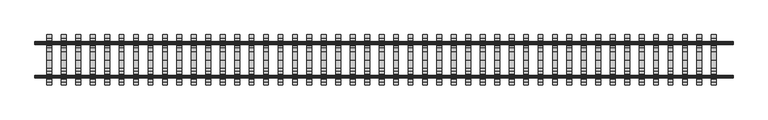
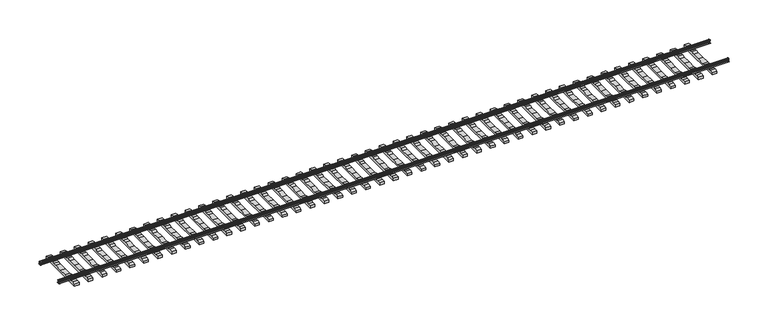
"""IFC4 building model written with IfcOpenShell, lengths in millimetres: beam geometry, 轨道 : 轨道."""

from ifc_helpers import new_model, si_unit, frame, origin, place, context, project, spatial, polyline, circle_curve, outline, extrude, source, transform, mapped, element, save
from ifc_brep_helpers import plane_surface, cylinder_surface, revolved_surface, advanced_brep


def beam_23171de8(model_context):
    return source(origin(), model_context, "Body", "SolidModel", [
        extrude(outline(polyline([(-1049.8834664, -104.5), (-1049.8834664, -4.4793111), (-912.0, 20.0), (-812.0, 20.0), (-812.0, 0.0), (-588.0, 0.0), (-588.0, 20.0), (-488.0, 20.0), (-350.0, -4.5), (0.0, -4.5), (350.0, -4.5), (488.0, 20.0), (588.0, 20.0), (588.0, 0.0), (812.0, 0.0), (812.0, 20.0), (912.0, 20.0), (1049.8834664, -4.4793111), (1049.8834664, -104.5), (-1049.8834664, -104.5)])), frame((13600.0, 0.0, 0.0), z_axis=(1.0, 0.0, 0.0), x_axis=(0.0, 1.0, 0.0)), (0.0, 0.0, 1.0), 200.0),
        extrude(outline(polyline([(-1049.8834664, -104.5), (-1049.8834664, -4.4793111), (-912.0, 20.0), (-812.0, 20.0), (-812.0, 0.0), (-588.0, 0.0), (-588.0, 20.0), (-488.0, 20.0), (-350.0, -4.5), (0.0, -4.5), (350.0, -4.5), (488.0, 20.0), (588.0, 20.0), (588.0, 0.0), (812.0, 0.0), (812.0, 20.0), (912.0, 20.0), (1049.8834664, -4.4793111), (1049.8834664, -104.5), (-1049.8834664, -104.5)])), frame((13000.0, 0.0, 0.0), z_axis=(1.0, 0.0, 0.0), x_axis=(0.0, 1.0, 0.0)), (0.0, 0.0, 1.0), 200.0),
        extrude(outline(polyline([(-1049.8834664, -104.5), (-1049.8834664, -4.4793111), (-912.0, 20.0), (-812.0, 20.0), (-812.0, 0.0), (-588.0, 0.0), (-588.0, 20.0), (-488.0, 20.0), (-350.0, -4.5), (0.0, -4.5), (350.0, -4.5), (488.0, 20.0), (588.0, 20.0), (588.0, 0.0), (812.0, 0.0), (812.0, 20.0), (912.0, 20.0), (1049.8834664, -4.4793111), (1049.8834664, -104.5), (-1049.8834664, -104.5)])), frame((12400.0, 0.0, 0.0), z_axis=(1.0, 0.0, 0.0), x_axis=(0.0, 1.0, 0.0)), (0.0, 0.0, 1.0), 200.0),
        extrude(outline(polyline([(-1049.8834664, -104.5), (-1049.8834664, -4.4793111), (-912.0, 20.0), (-812.0, 20.0), (-812.0, 0.0), (-588.0, 0.0), (-588.0, 20.0), (-488.0, 20.0), (-350.0, -4.5), (0.0, -4.5), (350.0, -4.5), (488.0, 20.0), (588.0, 20.0), (588.0, 0.0), (812.0, 0.0), (812.0, 20.0), (912.0, 20.0), (1049.8834664, -4.4793111), (1049.8834664, -104.5), (-1049.8834664, -104.5)])), frame((11800.0, 0.0, 0.0), z_axis=(1.0, 0.0, 0.0), x_axis=(0.0, 1.0, 0.0)), (0.0, 0.0, 1.0), 200.0),
        extrude(outline(polyline([(-1049.8834664, -104.5), (-1049.8834664, -4.4793111), (-912.0, 20.0), (-812.0, 20.0), (-812.0, 0.0), (-588.0, 0.0), (-588.0, 20.0), (-488.0, 20.0), (-350.0, -4.5), (0.0, -4.5), (350.0, -4.5), (488.0, 20.0), (588.0, 20.0), (588.0, 0.0), (812.0, 0.0), (812.0, 20.0), (912.0, 20.0), (1049.8834664, -4.4793111), (1049.8834664, -104.5), (-1049.8834664, -104.5)])), frame((11200.0, 0.0, 0.0), z_axis=(1.0, 0.0, 0.0), x_axis=(0.0, 1.0, 0.0)), (0.0, 0.0, 1.0), 200.0),
        extrude(outline(polyline([(-1049.8834664, -104.5), (-1049.8834664, -4.4793111), (-912.0, 20.0), (-812.0, 20.0), (-812.0, 0.0), (-588.0, 0.0), (-588.0, 20.0), (-488.0, 20.0), (-350.0, -4.5), (0.0, -4.5), (350.0, -4.5), (488.0, 20.0), (588.0, 20.0), (588.0, 0.0), (812.0, 0.0), (812.0, 20.0), (912.0, 20.0), (1049.8834664, -4.4793111), (1049.8834664, -104.5), (-1049.8834664, -104.5)])), frame((10600.0, 0.0, 0.0), z_axis=(1.0, 0.0, 0.0), x_axis=(0.0, 1.0, 0.0)), (0.0, 0.0, 1.0), 200.0),
        extrude(outline(polyline([(-1049.8834664, -104.5), (-1049.8834664, -4.4793111), (-912.0, 20.0), (-812.0, 20.0), (-812.0, 0.0), (-588.0, 0.0), (-588.0, 20.0), (-488.0, 20.0), (-350.0, -4.5), (0.0, -4.5), (350.0, -4.5), (488.0, 20.0), (588.0, 20.0), (588.0, 0.0), (812.0, 0.0), (812.0, 20.0), (912.0, 20.0), (1049.8834664, -4.4793111), (1049.8834664, -104.5), (-1049.8834664, -104.5)])), frame((10000.0, 0.0, 0.0), z_axis=(1.0, 0.0, 0.0), x_axis=(0.0, 1.0, 0.0)), (0.0, 0.0, 1.0), 200.0),
        extrude(outline(polyline([(-1049.8834664, -104.5), (-1049.8834664, -4.4793111), (-912.0, 20.0), (-812.0, 20.0), (-812.0, 0.0), (-588.0, 0.0), (-588.0, 20.0), (-488.0, 20.0), (-350.0, -4.5), (0.0, -4.5), (350.0, -4.5), (488.0, 20.0), (588.0, 20.0), (588.0, 0.0), (812.0, 0.0), (812.0, 20.0), (912.0, 20.0), (1049.8834664, -4.4793111), (1049.8834664, -104.5), (-1049.8834664, -104.5)])), frame((9400.0, 0.0, 0.0), z_axis=(1.0, 0.0, 0.0), x_axis=(0.0, 1.0, 0.0)), (0.0, 0.0, 1.0), 200.0),
        extrude(outline(polyline([(-1049.8834664, -104.5), (-1049.8834664, -4.4793111), (-912.0, 20.0), (-812.0, 20.0), (-812.0, 0.0), (-588.0, 0.0), (-588.0, 20.0), (-488.0, 20.0), (-350.0, -4.5), (0.0, -4.5), (350.0, -4.5), (488.0, 20.0), (588.0, 20.0), (588.0, 0.0), (812.0, 0.0), (812.0, 20.0), (912.0, 20.0), (1049.8834664, -4.4793111), (1049.8834664, -104.5), (-1049.8834664, -104.5)])), frame((8800.0, 0.0, 0.0), z_axis=(1.0, 0.0, 0.0), x_axis=(0.0, 1.0, 0.0)), (0.0, 0.0, 1.0), 200.0),
        extrude(outline(polyline([(-1049.8834664, -104.5), (-1049.8834664, -4.4793111), (-912.0, 20.0), (-812.0, 20.0), (-812.0, 0.0), (-588.0, 0.0), (-588.0, 20.0), (-488.0, 20.0), (-350.0, -4.5), (0.0, -4.5), (350.0, -4.5), (488.0, 20.0), (588.0, 20.0), (588.0, 0.0), (812.0, 0.0), (812.0, 20.0), (912.0, 20.0), (1049.8834664, -4.4793111), (1049.8834664, -104.5), (-1049.8834664, -104.5)])), frame((8200.0, 0.0, 0.0), z_axis=(1.0, 0.0, 0.0), x_axis=(0.0, 1.0, 0.0)), (0.0, 0.0, 1.0), 200.0),
        extrude(outline(polyline([(-1049.8834664, -104.5), (-1049.8834664, -4.4793111), (-912.0, 20.0), (-812.0, 20.0), (-812.0, 0.0), (-588.0, 0.0), (-588.0, 20.0), (-488.0, 20.0), (-350.0, -4.5), (0.0, -4.5), (350.0, -4.5), (488.0, 20.0), (588.0, 20.0), (588.0, 0.0), (812.0, 0.0), (812.0, 20.0), (912.0, 20.0), (1049.8834664, -4.4793111), (1049.8834664, -104.5), (-1049.8834664, -104.5)])), frame((7600.0, 0.0, 0.0), z_axis=(1.0, 0.0, 0.0), x_axis=(0.0, 1.0, 0.0)), (0.0, 0.0, 1.0), 200.0),
        extrude(outline(polyline([(-1049.8834664, -104.5), (-1049.8834664, -4.4793111), (-912.0, 20.0), (-812.0, 20.0), (-812.0, 0.0), (-588.0, 0.0), (-588.0, 20.0), (-488.0, 20.0), (-350.0, -4.5), (0.0, -4.5), (350.0, -4.5), (488.0, 20.0), (588.0, 20.0), (588.0, 0.0), (812.0, 0.0), (812.0, 20.0), (912.0, 20.0), (1049.8834664, -4.4793111), (1049.8834664, -104.5), (-1049.8834664, -104.5)])), frame((7000.0, 0.0, 0.0), z_axis=(1.0, 0.0, 0.0), x_axis=(0.0, 1.0, 0.0)), (0.0, 0.0, 1.0), 200.0),
        extrude(outline(polyline([(-1049.8834664, -104.5), (-1049.8834664, -4.4793111), (-912.0, 20.0), (-812.0, 20.0), (-812.0, 0.0), (-588.0, 0.0), (-588.0, 20.0), (-488.0, 20.0), (-350.0, -4.5), (0.0, -4.5), (350.0, -4.5), (488.0, 20.0), (588.0, 20.0), (588.0, 0.0), (812.0, 0.0), (812.0, 20.0), (912.0, 20.0), (1049.8834664, -4.4793111), (1049.8834664, -104.5), (-1049.8834664, -104.5)])), frame((6400.0, 0.0, 0.0), z_axis=(1.0, 0.0, 0.0), x_axis=(0.0, 1.0, 0.0)), (0.0, 0.0, 1.0), 200.0),
        extrude(outline(polyline([(-1049.8834664, -104.5), (-1049.8834664, -4.4793111), (-912.0, 20.0), (-812.0, 20.0), (-812.0, 0.0), (-588.0, 0.0), (-588.0, 20.0), (-488.0, 20.0), (-350.0, -4.5), (0.0, -4.5), (350.0, -4.5), (488.0, 20.0), (588.0, 20.0), (588.0, 0.0), (812.0, 0.0), (812.0, 20.0), (912.0, 20.0), (1049.8834664, -4.4793111), (1049.8834664, -104.5), (-1049.8834664, -104.5)])), frame((5800.0, 0.0, 0.0), z_axis=(1.0, 0.0, 0.0), x_axis=(0.0, 1.0, 0.0)), (0.0, 0.0, 1.0), 200.0),
        extrude(outline(polyline([(-1049.8834664, -104.5), (-1049.8834664, -4.4793111), (-912.0, 20.0), (-812.0, 20.0), (-812.0, 0.0), (-588.0, 0.0), (-588.0, 20.0), (-488.0, 20.0), (-350.0, -4.5), (0.0, -4.5), (350.0, -4.5), (488.0, 20.0), (588.0, 20.0), (588.0, 0.0), (812.0, 0.0), (812.0, 20.0), (912.0, 20.0), (1049.8834664, -4.4793111), (1049.8834664, -104.5), (-1049.8834664, -104.5)])), frame((5200.0, 0.0, 0.0), z_axis=(1.0, 0.0, 0.0), x_axis=(0.0, 1.0, 0.0)), (0.0, 0.0, 1.0), 200.0),
        extrude(outline(polyline([(-1049.8834664, -104.5), (-1049.8834664, -4.4793111), (-912.0, 20.0), (-812.0, 20.0), (-812.0, 0.0), (-588.0, 0.0), (-588.0, 20.0), (-488.0, 20.0), (-350.0, -4.5), (0.0, -4.5), (350.0, -4.5), (488.0, 20.0), (588.0, 20.0), (588.0, 0.0), (812.0, 0.0), (812.0, 20.0), (912.0, 20.0), (1049.8834664, -4.4793111), (1049.8834664, -104.5), (-1049.8834664, -104.5)])), frame((4600.0, 0.0, 0.0), z_axis=(1.0, 0.0, 0.0), x_axis=(0.0, 1.0, 0.0)), (0.0, 0.0, 1.0), 200.0),
        extrude(outline(polyline([(-1049.8834664, -104.5), (-1049.8834664, -4.4793111), (-912.0, 20.0), (-812.0, 20.0), (-812.0, 0.0), (-588.0, 0.0), (-588.0, 20.0), (-488.0, 20.0), (-350.0, -4.5), (0.0, -4.5), (350.0, -4.5), (488.0, 20.0), (588.0, 20.0), (588.0, 0.0), (812.0, 0.0), (812.0, 20.0), (912.0, 20.0), (1049.8834664, -4.4793111), (1049.8834664, -104.5), (-1049.8834664, -104.5)])), frame((4000.0, 0.0, 0.0), z_axis=(1.0, 0.0, 0.0), x_axis=(0.0, 1.0, 0.0)), (0.0, 0.0, 1.0), 200.0),
        extrude(outline(polyline([(-1049.8834664, -104.5), (-1049.8834664, -4.4793111), (-912.0, 20.0), (-812.0, 20.0), (-812.0, 0.0), (-588.0, 0.0), (-588.0, 20.0), (-488.0, 20.0), (-350.0, -4.5), (0.0, -4.5), (350.0, -4.5), (488.0, 20.0), (588.0, 20.0), (588.0, 0.0), (812.0, 0.0), (812.0, 20.0), (912.0, 20.0), (1049.8834664, -4.4793111), (1049.8834664, -104.5), (-1049.8834664, -104.5)])), frame((3400.0, 0.0, 0.0), z_axis=(1.0, 0.0, 0.0), x_axis=(0.0, 1.0, 0.0)), (0.0, 0.0, 1.0), 200.0),
        extrude(outline(polyline([(-1049.8834664, -104.5), (-1049.8834664, -4.4793111), (-912.0, 20.0), (-812.0, 20.0), (-812.0, 0.0), (-588.0, 0.0), (-588.0, 20.0), (-488.0, 20.0), (-350.0, -4.5), (0.0, -4.5), (350.0, -4.5), (488.0, 20.0), (588.0, 20.0), (588.0, 0.0), (812.0, 0.0), (812.0, 20.0), (912.0, 20.0), (1049.8834664, -4.4793111), (1049.8834664, -104.5), (-1049.8834664, -104.5)])), frame((2800.0, 0.0, 0.0), z_axis=(1.0, 0.0, 0.0), x_axis=(0.0, 1.0, 0.0)), (0.0, 0.0, 1.0), 200.0),
        extrude(outline(polyline([(-1049.8834664, -104.5), (-1049.8834664, -4.4793111), (-912.0, 20.0), (-812.0, 20.0), (-812.0, 0.0), (-588.0, 0.0), (-588.0, 20.0), (-488.0, 20.0), (-350.0, -4.5), (0.0, -4.5), (350.0, -4.5), (488.0, 20.0), (588.0, 20.0), (588.0, 0.0), (812.0, 0.0), (812.0, 20.0), (912.0, 20.0), (1049.8834664, -4.4793111), (1049.8834664, -104.5), (-1049.8834664, -104.5)])), frame((2200.0, 0.0, 0.0), z_axis=(1.0, 0.0, 0.0), x_axis=(0.0, 1.0, 0.0)), (0.0, 0.0, 1.0), 200.0),
        extrude(outline(polyline([(-1049.8834664, -104.5), (-1049.8834664, -4.4793111), (-912.0, 20.0), (-812.0, 20.0), (-812.0, 0.0), (-588.0, 0.0), (-588.0, 20.0), (-488.0, 20.0), (-350.0, -4.5), (0.0, -4.5), (350.0, -4.5), (488.0, 20.0), (588.0, 20.0), (588.0, 0.0), (812.0, 0.0), (812.0, 20.0), (912.0, 20.0), (1049.8834664, -4.4793111), (1049.8834664, -104.5), (-1049.8834664, -104.5)])), frame((1600.0, 0.0, 0.0), z_axis=(1.0, 0.0, 0.0), x_axis=(0.0, 1.0, 0.0)), (0.0, 0.0, 1.0), 200.0),
        extrude(outline(polyline([(-1049.8834664, -104.5), (-1049.8834664, -4.4793111), (-912.0, 20.0), (-812.0, 20.0), (-812.0, 0.0), (-588.0, 0.0), (-588.0, 20.0), (-488.0, 20.0), (-350.0, -4.5), (0.0, -4.5), (350.0, -4.5), (488.0, 20.0), (588.0, 20.0), (588.0, 0.0), (812.0, 0.0), (812.0, 20.0), (912.0, 20.0), (1049.8834664, -4.4793111), (1049.8834664, -104.5), (-1049.8834664, -104.5)])), frame((1000.0, 0.0, 0.0), z_axis=(1.0, 0.0, 0.0), x_axis=(0.0, 1.0, 0.0)), (0.0, 0.0, 1.0), 200.0),
        extrude(outline(polyline([(-1049.8834664, -104.5), (-1049.8834664, -4.4793111), (-912.0, 20.0), (-812.0, 20.0), (-812.0, 0.0), (-588.0, 0.0), (-588.0, 20.0), (-488.0, 20.0), (-350.0, -4.5), (0.0, -4.5), (350.0, -4.5), (488.0, 20.0), (588.0, 20.0), (588.0, 0.0), (812.0, 0.0), (812.0, 20.0), (912.0, 20.0), (1049.8834664, -4.4793111), (1049.8834664, -104.5), (-1049.8834664, -104.5)])), frame((400.0, 0.0, 0.0), z_axis=(1.0, 0.0, 0.0), x_axis=(0.0, 1.0, 0.0)), (0.0, 0.0, 1.0), 200.0),
        extrude(outline(polyline([(-1049.8834664, -104.5), (-1049.8834664, -4.4793111), (-912.0, 20.0), (-812.0, 20.0), (-812.0, 0.0), (-588.0, 0.0), (-588.0, 20.0), (-488.0, 20.0), (-350.0, -4.5), (0.0, -4.5), (350.0, -4.5), (488.0, 20.0), (588.0, 20.0), (588.0, 0.0), (812.0, 0.0), (812.0, 20.0), (912.0, 20.0), (1049.8834664, -4.4793111), (1049.8834664, -104.5), (-1049.8834664, -104.5)])), frame((-200.0, 0.0, 0.0), z_axis=(1.0, 0.0, 0.0), x_axis=(0.0, 1.0, 0.0)), (0.0, 0.0, 1.0), 200.0),
        extrude(outline(polyline([(-1049.8834664, -104.5), (-1049.8834664, -4.4793111), (-912.0, 20.0), (-812.0, 20.0), (-812.0, 0.0), (-588.0, 0.0), (-588.0, 20.0), (-488.0, 20.0), (-350.0, -4.5), (0.0, -4.5), (350.0, -4.5), (488.0, 20.0), (588.0, 20.0), (588.0, 0.0), (812.0, 0.0), (812.0, 20.0), (912.0, 20.0), (1049.8834664, -4.4793111), (1049.8834664, -104.5), (-1049.8834664, -104.5)])), frame((-800.0, 0.0, 0.0), z_axis=(1.0, 0.0, 0.0), x_axis=(0.0, 1.0, 0.0)), (0.0, 0.0, 1.0), 200.0),
        extrude(outline(polyline([(-1049.8834664, -104.5), (-1049.8834664, -4.4793111), (-912.0, 20.0), (-812.0, 20.0), (-812.0, 0.0), (-588.0, 0.0), (-588.0, 20.0), (-488.0, 20.0), (-350.0, -4.5), (0.0, -4.5), (350.0, -4.5), (488.0, 20.0), (588.0, 20.0), (588.0, 0.0), (812.0, 0.0), (812.0, 20.0), (912.0, 20.0), (1049.8834664, -4.4793111), (1049.8834664, -104.5), (-1049.8834664, -104.5)])), frame((-1400.0, 0.0, 0.0), z_axis=(1.0, 0.0, 0.0), x_axis=(0.0, 1.0, 0.0)), (0.0, 0.0, 1.0), 200.0),
        extrude(outline(polyline([(-1049.8834664, -104.5), (-1049.8834664, -4.4793111), (-912.0, 20.0), (-812.0, 20.0), (-812.0, 0.0), (-588.0, 0.0), (-588.0, 20.0), (-488.0, 20.0), (-350.0, -4.5), (0.0, -4.5), (350.0, -4.5), (488.0, 20.0), (588.0, 20.0), (588.0, 0.0), (812.0, 0.0), (812.0, 20.0), (912.0, 20.0), (1049.8834664, -4.4793111), (1049.8834664, -104.5), (-1049.8834664, -104.5)])), frame((-2000.0, 0.0, 0.0), z_axis=(1.0, 0.0, 0.0), x_axis=(0.0, 1.0, 0.0)), (0.0, 0.0, 1.0), 200.0),
        extrude(outline(polyline([(-1049.8834664, -104.5), (-1049.8834664, -4.4793111), (-912.0, 20.0), (-812.0, 20.0), (-812.0, 0.0), (-588.0, 0.0), (-588.0, 20.0), (-488.0, 20.0), (-350.0, -4.5), (0.0, -4.5), (350.0, -4.5), (488.0, 20.0), (588.0, 20.0), (588.0, 0.0), (812.0, 0.0), (812.0, 20.0), (912.0, 20.0), (1049.8834664, -4.4793111), (1049.8834664, -104.5), (-1049.8834664, -104.5)])), frame((-2600.0, 0.0, 0.0), z_axis=(1.0, 0.0, 0.0), x_axis=(0.0, 1.0, 0.0)), (0.0, 0.0, 1.0), 200.0),
        extrude(outline(polyline([(-1049.8834664, -104.5), (-1049.8834664, -4.4793111), (-912.0, 20.0), (-812.0, 20.0), (-812.0, 0.0), (-588.0, 0.0), (-588.0, 20.0), (-488.0, 20.0), (-350.0, -4.5), (0.0, -4.5), (350.0, -4.5), (488.0, 20.0), (588.0, 20.0), (588.0, 0.0), (812.0, 0.0), (812.0, 20.0), (912.0, 20.0), (1049.8834664, -4.4793111), (1049.8834664, -104.5), (-1049.8834664, -104.5)])), frame((-3200.0, 0.0, 0.0), z_axis=(1.0, 0.0, 0.0), x_axis=(0.0, 1.0, 0.0)), (0.0, 0.0, 1.0), 200.0),
        extrude(outline(polyline([(-1049.8834664, -104.5), (-1049.8834664, -4.4793111), (-912.0, 20.0), (-812.0, 20.0), (-812.0, 0.0), (-588.0, 0.0), (-588.0, 20.0), (-488.0, 20.0), (-350.0, -4.5), (0.0, -4.5), (350.0, -4.5), (488.0, 20.0), (588.0, 20.0), (588.0, 0.0), (812.0, 0.0), (812.0, 20.0), (912.0, 20.0), (1049.8834664, -4.4793111), (1049.8834664, -104.5), (-1049.8834664, -104.5)])), frame((-3800.0, 0.0, 0.0), z_axis=(1.0, 0.0, 0.0), x_axis=(0.0, 1.0, 0.0)), (0.0, 0.0, 1.0), 200.0),
        extrude(outline(polyline([(-1049.8834664, -104.5), (-1049.8834664, -4.4793111), (-912.0, 20.0), (-812.0, 20.0), (-812.0, 0.0), (-588.0, 0.0), (-588.0, 20.0), (-488.0, 20.0), (-350.0, -4.5), (0.0, -4.5), (350.0, -4.5), (488.0, 20.0), (588.0, 20.0), (588.0, 0.0), (812.0, 0.0), (812.0, 20.0), (912.0, 20.0), (1049.8834664, -4.4793111), (1049.8834664, -104.5), (-1049.8834664, -104.5)])), frame((-4400.0, 0.0, 0.0), z_axis=(1.0, 0.0, 0.0), x_axis=(0.0, 1.0, 0.0)), (0.0, 0.0, 1.0), 200.0),
        extrude(outline(polyline([(-1049.8834664, -104.5), (-1049.8834664, -4.4793111), (-912.0, 20.0), (-812.0, 20.0), (-812.0, 0.0), (-588.0, 0.0), (-588.0, 20.0), (-488.0, 20.0), (-350.0, -4.5), (0.0, -4.5), (350.0, -4.5), (488.0, 20.0), (588.0, 20.0), (588.0, 0.0), (812.0, 0.0), (812.0, 20.0), (912.0, 20.0), (1049.8834664, -4.4793111), (1049.8834664, -104.5), (-1049.8834664, -104.5)])), frame((-5000.0, 0.0, 0.0), z_axis=(1.0, 0.0, 0.0), x_axis=(0.0, 1.0, 0.0)), (0.0, 0.0, 1.0), 200.0),
        extrude(outline(polyline([(-1049.8834664, -104.5), (-1049.8834664, -4.4793111), (-912.0, 20.0), (-812.0, 20.0), (-812.0, 0.0), (-588.0, 0.0), (-588.0, 20.0), (-488.0, 20.0), (-350.0, -4.5), (0.0, -4.5), (350.0, -4.5), (488.0, 20.0), (588.0, 20.0), (588.0, 0.0), (812.0, 0.0), (812.0, 20.0), (912.0, 20.0), (1049.8834664, -4.4793111), (1049.8834664, -104.5), (-1049.8834664, -104.5)])), frame((-5600.0, 0.0, 0.0), z_axis=(1.0, 0.0, 0.0), x_axis=(0.0, 1.0, 0.0)), (0.0, 0.0, 1.0), 200.0),
        extrude(outline(polyline([(-1049.8834664, -104.5), (-1049.8834664, -4.4793111), (-912.0, 20.0), (-812.0, 20.0), (-812.0, 0.0), (-588.0, 0.0), (-588.0, 20.0), (-488.0, 20.0), (-350.0, -4.5), (0.0, -4.5), (350.0, -4.5), (488.0, 20.0), (588.0, 20.0), (588.0, 0.0), (812.0, 0.0), (812.0, 20.0), (912.0, 20.0), (1049.8834664, -4.4793111), (1049.8834664, -104.5), (-1049.8834664, -104.5)])), frame((-6200.0, 0.0, 0.0), z_axis=(1.0, 0.0, 0.0), x_axis=(0.0, 1.0, 0.0)), (0.0, 0.0, 1.0), 200.0),
        extrude(outline(polyline([(-1049.8834664, -104.5), (-1049.8834664, -4.4793111), (-912.0, 20.0), (-812.0, 20.0), (-812.0, 0.0), (-588.0, 0.0), (-588.0, 20.0), (-488.0, 20.0), (-350.0, -4.5), (0.0, -4.5), (350.0, -4.5), (488.0, 20.0), (588.0, 20.0), (588.0, 0.0), (812.0, 0.0), (812.0, 20.0), (912.0, 20.0), (1049.8834664, -4.4793111), (1049.8834664, -104.5), (-1049.8834664, -104.5)])), frame((-6800.0, 0.0, 0.0), z_axis=(1.0, 0.0, 0.0), x_axis=(0.0, 1.0, 0.0)), (0.0, 0.0, 1.0), 200.0),
        extrude(outline(polyline([(-1049.8834664, -104.5), (-1049.8834664, -4.4793111), (-912.0, 20.0), (-812.0, 20.0), (-812.0, 0.0), (-588.0, 0.0), (-588.0, 20.0), (-488.0, 20.0), (-350.0, -4.5), (0.0, -4.5), (350.0, -4.5), (488.0, 20.0), (588.0, 20.0), (588.0, 0.0), (812.0, 0.0), (812.0, 20.0), (912.0, 20.0), (1049.8834664, -4.4793111), (1049.8834664, -104.5), (-1049.8834664, -104.5)])), frame((-7400.0, 0.0, 0.0), z_axis=(1.0, 0.0, 0.0), x_axis=(0.0, 1.0, 0.0)), (0.0, 0.0, 1.0), 200.0),
        extrude(outline(polyline([(-1049.8834664, -104.5), (-1049.8834664, -4.4793111), (-912.0, 20.0), (-812.0, 20.0), (-812.0, 0.0), (-588.0, 0.0), (-588.0, 20.0), (-488.0, 20.0), (-350.0, -4.5), (0.0, -4.5), (350.0, -4.5), (488.0, 20.0), (588.0, 20.0), (588.0, 0.0), (812.0, 0.0), (812.0, 20.0), (912.0, 20.0), (1049.8834664, -4.4793111), (1049.8834664, -104.5), (-1049.8834664, -104.5)])), frame((-8000.0, 0.0, 0.0), z_axis=(1.0, 0.0, 0.0), x_axis=(0.0, 1.0, 0.0)), (0.0, 0.0, 1.0), 200.0),
        extrude(outline(polyline([(-1049.8834664, -104.5), (-1049.8834664, -4.4793111), (-912.0, 20.0), (-812.0, 20.0), (-812.0, 0.0), (-588.0, 0.0), (-588.0, 20.0), (-488.0, 20.0), (-350.0, -4.5), (0.0, -4.5), (350.0, -4.5), (488.0, 20.0), (588.0, 20.0), (588.0, 0.0), (812.0, 0.0), (812.0, 20.0), (912.0, 20.0), (1049.8834664, -4.4793111), (1049.8834664, -104.5), (-1049.8834664, -104.5)])), frame((-8600.0, 0.0, 0.0), z_axis=(1.0, 0.0, 0.0), x_axis=(0.0, 1.0, 0.0)), (0.0, 0.0, 1.0), 200.0),
        extrude(outline(polyline([(-1049.8834664, -104.5), (-1049.8834664, -4.4793111), (-912.0, 20.0), (-812.0, 20.0), (-812.0, 0.0), (-588.0, 0.0), (-588.0, 20.0), (-488.0, 20.0), (-350.0, -4.5), (0.0, -4.5), (350.0, -4.5), (488.0, 20.0), (588.0, 20.0), (588.0, 0.0), (812.0, 0.0), (812.0, 20.0), (912.0, 20.0), (1049.8834664, -4.4793111), (1049.8834664, -104.5), (-1049.8834664, -104.5)])), frame((-9200.0, 0.0, 0.0), z_axis=(1.0, 0.0, 0.0), x_axis=(0.0, 1.0, 0.0)), (0.0, 0.0, 1.0), 200.0),
        extrude(outline(polyline([(-1049.8834664, -104.5), (-1049.8834664, -4.4793111), (-912.0, 20.0), (-812.0, 20.0), (-812.0, 0.0), (-588.0, 0.0), (-588.0, 20.0), (-488.0, 20.0), (-350.0, -4.5), (0.0, -4.5), (350.0, -4.5), (488.0, 20.0), (588.0, 20.0), (588.0, 0.0), (812.0, 0.0), (812.0, 20.0), (912.0, 20.0), (1049.8834664, -4.4793111), (1049.8834664, -104.5), (-1049.8834664, -104.5)])), frame((-9800.0, 0.0, 0.0), z_axis=(1.0, 0.0, 0.0), x_axis=(0.0, 1.0, 0.0)), (0.0, 0.0, 1.0), 200.0),
        extrude(outline(polyline([(-1049.8834664, -104.5), (-1049.8834664, -4.4793111), (-912.0, 20.0), (-812.0, 20.0), (-812.0, 0.0), (-588.0, 0.0), (-588.0, 20.0), (-488.0, 20.0), (-350.0, -4.5), (0.0, -4.5), (350.0, -4.5), (488.0, 20.0), (588.0, 20.0), (588.0, 0.0), (812.0, 0.0), (812.0, 20.0), (912.0, 20.0), (1049.8834664, -4.4793111), (1049.8834664, -104.5), (-1049.8834664, -104.5)])), frame((-10400.0, 0.0, 0.0), z_axis=(1.0, 0.0, 0.0), x_axis=(0.0, 1.0, 0.0)), (0.0, 0.0, 1.0), 200.0),
        extrude(outline(polyline([(-1049.8834664, -104.5), (-1049.8834664, -4.4793111), (-912.0, 20.0), (-812.0, 20.0), (-812.0, 0.0), (-588.0, 0.0), (-588.0, 20.0), (-488.0, 20.0), (-350.0, -4.5), (0.0, -4.5), (350.0, -4.5), (488.0, 20.0), (588.0, 20.0), (588.0, 0.0), (812.0, 0.0), (812.0, 20.0), (912.0, 20.0), (1049.8834664, -4.4793111), (1049.8834664, -104.5), (-1049.8834664, -104.5)])), frame((-11000.0, 0.0, 0.0), z_axis=(1.0, 0.0, 0.0), x_axis=(0.0, 1.0, 0.0)), (0.0, 0.0, 1.0), 200.0),
        extrude(outline(polyline([(-1049.8834664, -104.5), (-1049.8834664, -4.4793111), (-912.0, 20.0), (-812.0, 20.0), (-812.0, 0.0), (-588.0, 0.0), (-588.0, 20.0), (-488.0, 20.0), (-350.0, -4.5), (0.0, -4.5), (350.0, -4.5), (488.0, 20.0), (588.0, 20.0), (588.0, 0.0), (812.0, 0.0), (812.0, 20.0), (912.0, 20.0), (1049.8834664, -4.4793111), (1049.8834664, -104.5), (-1049.8834664, -104.5)])), frame((-11600.0, 0.0, 0.0), z_axis=(1.0, 0.0, 0.0), x_axis=(0.0, 1.0, 0.0)), (0.0, 0.0, 1.0), 200.0),
        extrude(outline(polyline([(-1049.8834664, -104.5), (-1049.8834664, -4.4793111), (-912.0, 20.0), (-812.0, 20.0), (-812.0, 0.0), (-588.0, 0.0), (-588.0, 20.0), (-488.0, 20.0), (-350.0, -4.5), (0.0, -4.5), (350.0, -4.5), (488.0, 20.0), (588.0, 20.0), (588.0, 0.0), (812.0, 0.0), (812.0, 20.0), (912.0, 20.0), (1049.8834664, -4.4793111), (1049.8834664, -104.5), (-1049.8834664, -104.5)])), frame((-12200.0, 0.0, 0.0), z_axis=(1.0, 0.0, 0.0), x_axis=(0.0, 1.0, 0.0)), (0.0, 0.0, 1.0), 200.0),
        extrude(outline(polyline([(-1049.8834664, -104.5), (-1049.8834664, -4.4793111), (-912.0, 20.0), (-812.0, 20.0), (-812.0, 0.0), (-588.0, 0.0), (-588.0, 20.0), (-488.0, 20.0), (-350.0, -4.5), (0.0, -4.5), (350.0, -4.5), (488.0, 20.0), (588.0, 20.0), (588.0, 0.0), (812.0, 0.0), (812.0, 20.0), (912.0, 20.0), (1049.8834664, -4.4793111), (1049.8834664, -104.5), (-1049.8834664, -104.5)])), frame((-12800.0, 0.0, 0.0), z_axis=(1.0, 0.0, 0.0), x_axis=(0.0, 1.0, 0.0)), (0.0, 0.0, 1.0), 200.0),
        extrude(outline(polyline([(-1049.8834664, -104.5), (-1049.8834664, -4.4793111), (-912.0, 20.0), (-812.0, 20.0), (-812.0, 0.0), (-588.0, 0.0), (-588.0, 20.0), (-488.0, 20.0), (-350.0, -4.5), (0.0, -4.5), (350.0, -4.5), (488.0, 20.0), (588.0, 20.0), (588.0, 0.0), (812.0, 0.0), (812.0, 20.0), (912.0, 20.0), (1049.8834664, -4.4793111), (1049.8834664, -104.5), (-1049.8834664, -104.5)])), frame((-13400.0, 0.0, 0.0), z_axis=(1.0, 0.0, 0.0), x_axis=(0.0, 1.0, 0.0)), (0.0, 0.0, 1.0), 200.0),
        extrude(outline(polyline([(-1049.8834664, -104.5), (-1049.8834664, -4.4793111), (-912.0, 20.0), (-812.0, 20.0), (-812.0, 0.0), (-588.0, 0.0), (-588.0, 20.0), (-488.0, 20.0), (-350.0, -4.5), (0.0, -4.5), (350.0, -4.5), (488.0, 20.0), (588.0, 20.0), (588.0, 0.0), (812.0, 0.0), (812.0, 20.0), (912.0, 20.0), (1049.8834664, -4.4793111), (1049.8834664, -104.5), (-1049.8834664, -104.5)])), frame((-14000.0, 0.0, 0.0), z_axis=(1.0, 0.0, 0.0), x_axis=(0.0, 1.0, 0.0)), (0.0, 0.0, 1.0), 200.0),
        advanced_brep(
        [(-14500.0, -643.0, 0.0), (-14500.0, -757.0, 0.0), (-14500.0, -757.0, 7.9682077), (-14500.0, -754.0810256, 11.8193612), (-14500.0, -718.2461541, 21.8782725), (-14500.0, -707.3, 36.3200984), (-14500.0, -707.3, 91.3683805), (-14500.0, -713.4090252, 100.5803464), (-14500.0, -733.778195, 109.1839307), (-14500.0, -735.0, 111.0263239), (-14500.0, -735.0, 126.2), (-14500.0, -722.9965951, 139.1172962), (-14500.0, -700.0, 140.0), (-14500.0, -677.0034049, 139.1172957), (-14500.0, -665.0, 126.2), (-14500.0, -665.0, 111.0263239), (-14500.0, -666.221805, 109.1839307), (-14500.0, -686.5909748, 100.5803464), (-14500.0, -692.7, 91.3683805), (-14500.0, -692.7, 36.3200984), (-14500.0, -681.7538459, 21.8782725), (-14500.0, -645.9189744, 11.8193612), (-14500.0, -643.0, 7.9682077), (14500.0, -757.0, 0.0), (14500.0, -643.0, 0.0), (14500.0, -643.0, 7.9682077), (14500.0, -645.9189744, 11.8193612), (14500.0, -681.7538459, 21.8782725), (14500.0, -692.7, 36.3200984), (14500.0, -692.7, 91.3683805), (14500.0, -686.5909748, 100.5803464), (14500.0, -666.221805, 109.1839307), (14500.0, -665.0, 111.0263239), (14500.0, -665.0, 126.2), (14500.0, -677.0034049, 139.1172962), (14500.0, -700.0, 140.0), (14500.0, -722.9965951, 139.1172957), (14500.0, -735.0, 126.2), (14500.0, -735.0, 111.0263239), (14500.0, -733.778195, 109.1839307), (14500.0, -713.4090252, 100.5803464), (14500.0, -707.3, 91.3683805), (14500.0, -707.3, 36.3200984), (14500.0, -718.2461541, 21.8782725), (14500.0, -754.0810256, 11.8193612), (14500.0, -757.0, 7.9682077)],
        [
            (0, 1),
            (1, 2),
            (2, 3, circle_curve(frame((-14500.0, -753.0, 7.9682077), z_axis=(-1.0, 0.0, 0.0), x_axis=(0.0, -1.0, 0.0)), 4.0)),
            (3, 4),
            (4, 5, circle_curve(frame((-14500.0, -722.3, 36.3200984), z_axis=(1.0, 0.0, 0.0), x_axis=(0.0, -1.0, 0.0)), 15.0)),
            (5, 6),
            (6, 7, circle_curve(frame((-14500.0, -717.3, 91.3683805), z_axis=(1.0, 0.0, 0.0), x_axis=(0.0, -1.0, 0.0)), 10.0)),
            (7, 8),
            (8, 9, circle_curve(frame((-14500.0, -733.0, 111.0263239), z_axis=(-1.0, 0.0, 0.0), x_axis=(0.0, -1.0, 0.0)), 2.0)),
            (9, 10),
            (10, 11, circle_curve(frame((-14500.0, -722.000076, 126.1555467), z_axis=(-1.0, 0.0, 0.0), x_axis=(0.0, -1.0, 0.0)), 13.0)),
            (11, 12, circle_curve(frame((-14500.0, -700.0, -160.0), z_axis=(-1.0, 0.0, 0.0), x_axis=(0.0, -1.0, 0.0)), 300.0)),
            (12, 13, circle_curve(frame((-14500.0, -700.0, -160.0), z_axis=(-1.0, 0.0, 0.0), x_axis=(0.0, 1.0, 0.0)), 300.0)),
            (13, 14, circle_curve(frame((-14500.0, -677.999924, 126.1555467), z_axis=(-1.0, 0.0, 0.0), x_axis=(0.0, 1.0, 0.0)), 13.0)),
            (14, 15),
            (15, 16, circle_curve(frame((-14500.0, -667.0, 111.0263239), z_axis=(-1.0, 0.0, 0.0), x_axis=(0.0, 1.0, 0.0)), 2.0)),
            (16, 17),
            (17, 18, circle_curve(frame((-14500.0, -682.7, 91.3683805), z_axis=(1.0, 0.0, 0.0), x_axis=(0.0, 1.0, 0.0)), 10.0)),
            (18, 19),
            (19, 20, circle_curve(frame((-14500.0, -677.7, 36.3200984), z_axis=(1.0, 0.0, 0.0), x_axis=(0.0, 1.0, 0.0)), 15.0)),
            (20, 21),
            (21, 22, circle_curve(frame((-14500.0, -647.0, 7.9682077), z_axis=(-1.0, 0.0, 0.0), x_axis=(0.0, 1.0, 0.0)), 4.0)),
            (22, 0),
            (23, 24),
            (24, 25),
            (25, 26, circle_curve(frame((14500.0, -647.0, 7.9682077), z_axis=(1.0, 0.0, 0.0), x_axis=(0.0, 1.0, 0.0)), 4.0)),
            (26, 27),
            (27, 28, circle_curve(frame((14500.0, -677.7, 36.3200984), z_axis=(-1.0, 0.0, 0.0), x_axis=(0.0, 1.0, 0.0)), 15.0)),
            (28, 29),
            (29, 30, circle_curve(frame((14500.0, -682.7, 91.3683805), z_axis=(-1.0, 0.0, 0.0), x_axis=(0.0, 1.0, 0.0)), 10.0)),
            (30, 31),
            (31, 32, circle_curve(frame((14500.0, -667.0, 111.0263239), z_axis=(1.0, 0.0, 0.0), x_axis=(0.0, 1.0, 0.0)), 2.0)),
            (32, 33),
            (33, 34, circle_curve(frame((14500.0, -677.999924, 126.1555467), z_axis=(1.0, 0.0, 0.0), x_axis=(0.0, 1.0, 0.0)), 13.0)),
            (34, 35, circle_curve(frame((14500.0, -700.0, -160.0), z_axis=(1.0, 0.0, 0.0), x_axis=(0.0, 1.0, 0.0)), 300.0)),
            (35, 36, circle_curve(frame((14500.0, -700.0, -160.0), z_axis=(1.0, 0.0, 0.0), x_axis=(0.0, -1.0, 0.0)), 300.0)),
            (36, 37, circle_curve(frame((14500.0, -722.000076, 126.1555467), z_axis=(1.0, 0.0, 0.0), x_axis=(0.0, -1.0, 0.0)), 13.0)),
            (37, 38),
            (38, 39, circle_curve(frame((14500.0, -733.0, 111.0263239), z_axis=(1.0, 0.0, 0.0), x_axis=(0.0, -1.0, 0.0)), 2.0)),
            (39, 40),
            (40, 41, circle_curve(frame((14500.0, -717.3, 91.3683805), z_axis=(-1.0, 0.0, 0.0), x_axis=(0.0, -1.0, 0.0)), 10.0)),
            (41, 42),
            (42, 43, circle_curve(frame((14500.0, -722.3, 36.3200984), z_axis=(-1.0, 0.0, 0.0), x_axis=(0.0, -1.0, 0.0)), 15.0)),
            (43, 44),
            (44, 45, circle_curve(frame((14500.0, -753.0, 7.9682077), z_axis=(1.0, 0.0, 0.0), x_axis=(0.0, -1.0, 0.0)), 4.0)),
            (45, 23),
            (0, 24),
            (23, 1),
            (45, 2),
            (44, 3),
            (43, 4),
            (42, 5),
            (41, 6),
            (40, 7),
            (39, 8),
            (38, 9),
            (37, 10),
            (36, 11),
            (35, 12),
            (34, 13),
            (33, 14),
            (32, 15),
            (31, 16),
            (30, 17),
            (29, 18),
            (28, 19),
            (27, 20),
            (26, 21),
            (25, 22),
        ],
        [
            plane_surface(frame((-14500.0, 0.0, 0.0), z_axis=(-1.0, 0.0, 0.0), x_axis=(0.0, 0.0, 1.0))),
            plane_surface(frame((14500.0, 0.0, 0.0), z_axis=(1.0, 0.0, 0.0), x_axis=(0.0, 0.0, 1.0))),
            plane_surface(frame((-14500.0, -700.0, 0.0), z_axis=(0.0, 0.0, -1.0), x_axis=(1.0, 0.0, 0.0))),
            plane_surface(frame((-14500.0, -757.0, 0.0), z_axis=(0.0, -1.0, 0.0), x_axis=(1.0, 0.0, 0.0))),
            cylinder_surface(frame((-14500.0, -753.0, 7.9682077), z_axis=(-1.0, 0.0, 0.0), x_axis=(0.0, -1.0, 0.0)), 4.0),
            plane_surface(frame((-14500.0, -754.0810256, 11.8193612), z_axis=(0.0, -0.27025639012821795, 0.9627883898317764), x_axis=(1.0, 0.0, 0.0))),
            revolved_surface(polyline([(14500.0, -737.3, 36.3200984), (-14500.0, -737.3, 36.3200984)]), (-14500.0, -722.3, 36.3200984), (1.0, 0.0, 0.0)),
            plane_surface(frame((-14500.0, -707.3, 36.3200984), z_axis=(0.0, -1.0, 0.0), x_axis=(1.0, 0.0, 0.0))),
            revolved_surface(polyline([(14500.0, -727.3, 91.3683805), (-14500.0, -727.3, 91.3683805)]), (-14500.0, -717.3, 91.3683805), (1.0, 0.0, 0.0)),
            plane_surface(frame((-14500.0, -713.4090252, 100.5803464), z_axis=(0.0, -0.3890974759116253, -0.9211965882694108), x_axis=(1.0, 0.0, 0.0))),
            cylinder_surface(frame((-14500.0, -733.0, 111.0263239), z_axis=(-1.0, 0.0, 0.0), x_axis=(0.0, -1.0, 0.0)), 2.0),
            plane_surface(frame((-14500.0, -735.0, 111.0263239), z_axis=(0.0, -1.0, 0.0), x_axis=(1.0, 0.0, 0.0))),
            cylinder_surface(frame((-14500.0, -722.000076, 126.1555467), z_axis=(-1.0, 0.0, 0.0), x_axis=(0.0, -1.0, 0.0)), 13.0),
            cylinder_surface(frame((-14500.0, -700.0, -160.0), z_axis=(-1.0, 0.0, 0.0), x_axis=(0.0, -1.0, 0.0)), 300.0),
            cylinder_surface(frame((-14500.0, -700.0, -160.0), z_axis=(-1.0, 0.0, 0.0), x_axis=(0.0, 1.0, 0.0)), 300.0),
            cylinder_surface(frame((-14500.0, -677.999924, 126.1555467), z_axis=(-1.0, 0.0, 0.0), x_axis=(0.0, 1.0, 0.0)), 13.0),
            plane_surface(frame((-14500.0, -665.0, 126.2), z_axis=(0.0, 1.0, 0.0), x_axis=(1.0, 0.0, 0.0))),
            cylinder_surface(frame((-14500.0, -667.0, 111.0263239), z_axis=(-1.0, 0.0, 0.0), x_axis=(0.0, 1.0, 0.0)), 2.0),
            plane_surface(frame((-14500.0, -666.221805, 109.1839307), z_axis=(0.0, 0.3890974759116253, -0.9211965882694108), x_axis=(1.0, 0.0, 0.0))),
            revolved_surface(polyline([(14500.0, -672.7, 91.3683805), (-14500.0, -672.7, 91.3683805)]), (-14500.0, -682.7, 91.3683805), (1.0, 0.0, 0.0)),
            plane_surface(frame((-14500.0, -692.7, 91.3683805), z_axis=(0.0, 1.0, 0.0), x_axis=(1.0, 0.0, 0.0))),
            revolved_surface(polyline([(14500.0, -662.7, 36.3200984), (-14500.0, -662.7, 36.3200984)]), (-14500.0, -677.7, 36.3200984), (1.0, 0.0, 0.0)),
            plane_surface(frame((-14500.0, -681.7538459, 21.8782725), z_axis=(0.0, 0.27025639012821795, 0.9627883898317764), x_axis=(1.0, 0.0, 0.0))),
            cylinder_surface(frame((-14500.0, -647.0, 7.9682077), z_axis=(-1.0, 0.0, 0.0), x_axis=(0.0, 1.0, 0.0)), 4.0),
            plane_surface(frame((-14500.0, -643.0, 7.9682077), z_axis=(0.0, 1.0, 0.0), x_axis=(1.0, 0.0, 0.0))),
        ],
        [
            (0, [[1, 2, 3, 4, 5, 6, 7, 8, 9, 10, 11, 12, 13, 14, 15, 16, 17, 18, 19, 20, 21, 22, 23]]),
            (1, [[24, 25, 26, 27, 28, 29, 30, 31, 32, 33, 34, 35, 36, 37, 38, 39, 40, 41, 42, 43, 44, 45, 46]]),
            (2, [[47, -24, 48, -1]]),
            (3, [[-2, -48, -46, 49]]),
            (4, [[-3, -49, -45, 50]]),
            (5, [[-4, -50, -44, 51]]),
            (6, [[-5, -51, -43, 52]]),
            (7, [[-6, -52, -42, 53]]),
            (8, [[-7, -53, -41, 54]]),
            (9, [[-8, -54, -40, 55]]),
            (10, [[-9, -55, -39, 56]]),
            (11, [[-10, -56, -38, 57]]),
            (12, [[-11, -57, -37, 58]]),
            (13, [[-12, -58, -36, 59]]),
            (14, [[-13, -59, -35, 60]]),
            (15, [[-14, -60, -34, 61]]),
            (16, [[-15, -61, -33, 62]]),
            (17, [[-16, -62, -32, 63]]),
            (18, [[-17, -63, -31, 64]]),
            (19, [[-18, -64, -30, 65]]),
            (20, [[-19, -65, -29, 66]]),
            (21, [[-20, -66, -28, 67]]),
            (22, [[-21, -67, -27, 68]]),
            (23, [[-22, -68, -26, 69]]),
            (24, [[-23, -69, -25, -47]]),
        ],
    ),
        advanced_brep(
        [(-14500.0, 757.0, 0.0), (-14500.0, 643.0, 0.0), (-14500.0, 643.0, 7.9682077), (-14500.0, 645.9189744, 11.8193612), (-14500.0, 681.7538459, 21.8782725), (-14500.0, 692.7, 36.3200984), (-14500.0, 692.7, 91.3683805), (-14500.0, 686.5909748, 100.5803464), (-14500.0, 666.221805, 109.1839307), (-14500.0, 665.0, 111.0263239), (-14500.0, 665.0, 126.2), (-14500.0, 677.0034049, 139.1172962), (-14500.0, 700.0, 140.0), (-14500.0, 722.9965951, 139.1172957), (-14500.0, 735.0, 126.2), (-14500.0, 735.0, 111.0263239), (-14500.0, 733.778195, 109.1839307), (-14500.0, 713.4090252, 100.5803464), (-14500.0, 707.3, 91.3683805), (-14500.0, 707.3, 36.3200984), (-14500.0, 718.2461541, 21.8782725), (-14500.0, 754.0810256, 11.8193612), (-14500.0, 757.0, 7.9682077), (14500.0, 643.0, 0.0), (14500.0, 757.0, 0.0), (14500.0, 757.0, 7.9682077), (14500.0, 754.0810256, 11.8193612), (14500.0, 718.2461541, 21.8782725), (14500.0, 707.3, 36.3200984), (14500.0, 707.3, 91.3683805), (14500.0, 713.4090252, 100.5803464), (14500.0, 733.778195, 109.1839307), (14500.0, 735.0, 111.0263239), (14500.0, 735.0, 126.2), (14500.0, 722.9965951, 139.1172962), (14500.0, 700.0, 140.0), (14500.0, 677.0034049, 139.1172957), (14500.0, 665.0, 126.2), (14500.0, 665.0, 111.0263239), (14500.0, 666.221805, 109.1839307), (14500.0, 686.5909748, 100.5803464), (14500.0, 692.7, 91.3683805), (14500.0, 692.7, 36.3200984), (14500.0, 681.7538459, 21.8782725), (14500.0, 645.9189744, 11.8193612), (14500.0, 643.0, 7.9682077)],
        [
            (0, 1),
            (1, 2),
            (2, 3, circle_curve(frame((-14500.0, 647.0, 7.9682077), z_axis=(-1.0, 0.0, 0.0), x_axis=(0.0, -1.0, 0.0)), 4.0)),
            (3, 4),
            (4, 5, circle_curve(frame((-14500.0, 677.7, 36.3200984), z_axis=(1.0, 0.0, 0.0), x_axis=(0.0, -1.0, 0.0)), 15.0)),
            (5, 6),
            (6, 7, circle_curve(frame((-14500.0, 682.7, 91.3683805), z_axis=(1.0, 0.0, 0.0), x_axis=(0.0, -1.0, 0.0)), 10.0)),
            (7, 8),
            (8, 9, circle_curve(frame((-14500.0, 667.0, 111.0263239), z_axis=(-1.0, 0.0, 0.0), x_axis=(0.0, -1.0, 0.0)), 2.0)),
            (9, 10),
            (10, 11, circle_curve(frame((-14500.0, 677.999924, 126.1555467), z_axis=(-1.0, 0.0, 0.0), x_axis=(0.0, -1.0, 0.0)), 13.0)),
            (11, 12, circle_curve(frame((-14500.0, 700.0, -160.0), z_axis=(-1.0, 0.0, 0.0), x_axis=(0.0, -1.0, 0.0)), 300.0)),
            (12, 13, circle_curve(frame((-14500.0, 700.0, -160.0), z_axis=(-1.0, 0.0, 0.0), x_axis=(0.0, 1.0, 0.0)), 300.0)),
            (13, 14, circle_curve(frame((-14500.0, 722.000076, 126.1555467), z_axis=(-1.0, 0.0, 0.0), x_axis=(0.0, 1.0, 0.0)), 13.0)),
            (14, 15),
            (15, 16, circle_curve(frame((-14500.0, 733.0, 111.0263239), z_axis=(-1.0, 0.0, 0.0), x_axis=(0.0, 1.0, 0.0)), 2.0)),
            (16, 17),
            (17, 18, circle_curve(frame((-14500.0, 717.3, 91.3683805), z_axis=(1.0, 0.0, 0.0), x_axis=(0.0, 1.0, 0.0)), 10.0)),
            (18, 19),
            (19, 20, circle_curve(frame((-14500.0, 722.3, 36.3200984), z_axis=(1.0, 0.0, 0.0), x_axis=(0.0, 1.0, 0.0)), 15.0)),
            (20, 21),
            (21, 22, circle_curve(frame((-14500.0, 753.0, 7.9682077), z_axis=(-1.0, 0.0, 0.0), x_axis=(0.0, 1.0, 0.0)), 4.0)),
            (22, 0),
            (23, 24),
            (24, 25),
            (25, 26, circle_curve(frame((14500.0, 753.0, 7.9682077), z_axis=(1.0, 0.0, 0.0), x_axis=(0.0, 1.0, 0.0)), 4.0)),
            (26, 27),
            (27, 28, circle_curve(frame((14500.0, 722.3, 36.3200984), z_axis=(-1.0, 0.0, 0.0), x_axis=(0.0, 1.0, 0.0)), 15.0)),
            (28, 29),
            (29, 30, circle_curve(frame((14500.0, 717.3, 91.3683805), z_axis=(-1.0, 0.0, 0.0), x_axis=(0.0, 1.0, 0.0)), 10.0)),
            (30, 31),
            (31, 32, circle_curve(frame((14500.0, 733.0, 111.0263239), z_axis=(1.0, 0.0, 0.0), x_axis=(0.0, 1.0, 0.0)), 2.0)),
            (32, 33),
            (33, 34, circle_curve(frame((14500.0, 722.000076, 126.1555467), z_axis=(1.0, 0.0, 0.0), x_axis=(0.0, 1.0, 0.0)), 13.0)),
            (34, 35, circle_curve(frame((14500.0, 700.0, -160.0), z_axis=(1.0, 0.0, 0.0), x_axis=(0.0, 1.0, 0.0)), 300.0)),
            (35, 36, circle_curve(frame((14500.0, 700.0, -160.0), z_axis=(1.0, 0.0, 0.0), x_axis=(0.0, -1.0, 0.0)), 300.0)),
            (36, 37, circle_curve(frame((14500.0, 677.999924, 126.1555467), z_axis=(1.0, 0.0, 0.0), x_axis=(0.0, -1.0, 0.0)), 13.0)),
            (37, 38),
            (38, 39, circle_curve(frame((14500.0, 667.0, 111.0263239), z_axis=(1.0, 0.0, 0.0), x_axis=(0.0, -1.0, 0.0)), 2.0)),
            (39, 40),
            (40, 41, circle_curve(frame((14500.0, 682.7, 91.3683805), z_axis=(-1.0, 0.0, 0.0), x_axis=(0.0, -1.0, 0.0)), 10.0)),
            (41, 42),
            (42, 43, circle_curve(frame((14500.0, 677.7, 36.3200984), z_axis=(-1.0, 0.0, 0.0), x_axis=(0.0, -1.0, 0.0)), 15.0)),
            (43, 44),
            (44, 45, circle_curve(frame((14500.0, 647.0, 7.9682077), z_axis=(1.0, 0.0, 0.0), x_axis=(0.0, -1.0, 0.0)), 4.0)),
            (45, 23),
            (0, 24),
            (23, 1),
            (45, 2),
            (44, 3),
            (43, 4),
            (42, 5),
            (41, 6),
            (40, 7),
            (39, 8),
            (38, 9),
            (37, 10),
            (36, 11),
            (35, 12),
            (34, 13),
            (33, 14),
            (32, 15),
            (31, 16),
            (30, 17),
            (29, 18),
            (28, 19),
            (27, 20),
            (26, 21),
            (25, 22),
        ],
        [
            plane_surface(frame((-14500.0, 0.0, 0.0), z_axis=(-1.0, 0.0, 0.0), x_axis=(0.0, 0.0, 1.0))),
            plane_surface(frame((14500.0, 0.0, 0.0), z_axis=(1.0, 0.0, 0.0), x_axis=(0.0, 0.0, 1.0))),
            plane_surface(frame((-14500.0, 700.0, 0.0), z_axis=(0.0, 0.0, -1.0), x_axis=(1.0, 0.0, 0.0))),
            plane_surface(frame((-14500.0, 643.0, 0.0), z_axis=(0.0, -1.0, 0.0), x_axis=(1.0, 0.0, 0.0))),
            cylinder_surface(frame((-14500.0, 647.0, 7.9682077), z_axis=(-1.0, 0.0, 0.0), x_axis=(0.0, -1.0, 0.0)), 4.0),
            plane_surface(frame((-14500.0, 645.9189744, 11.8193612), z_axis=(0.0, -0.27025639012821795, 0.9627883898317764), x_axis=(1.0, 0.0, 0.0))),
            revolved_surface(polyline([(14500.0, 662.7, 36.3200984), (-14500.0, 662.7, 36.3200984)]), (-14500.0, 677.7, 36.3200984), (1.0, 0.0, 0.0)),
            plane_surface(frame((-14500.0, 692.7, 36.3200984), z_axis=(0.0, -1.0, 0.0), x_axis=(1.0, 0.0, 0.0))),
            revolved_surface(polyline([(14500.0, 672.7, 91.3683805), (-14500.0, 672.7, 91.3683805)]), (-14500.0, 682.7, 91.3683805), (1.0, 0.0, 0.0)),
            plane_surface(frame((-14500.0, 686.5909748, 100.5803464), z_axis=(0.0, -0.3890974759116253, -0.9211965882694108), x_axis=(1.0, 0.0, 0.0))),
            cylinder_surface(frame((-14500.0, 667.0, 111.0263239), z_axis=(-1.0, 0.0, 0.0), x_axis=(0.0, -1.0, 0.0)), 2.0),
            plane_surface(frame((-14500.0, 665.0, 111.0263239), z_axis=(0.0, -1.0, 0.0), x_axis=(1.0, 0.0, 0.0))),
            cylinder_surface(frame((-14500.0, 677.999924, 126.1555467), z_axis=(-1.0, 0.0, 0.0), x_axis=(0.0, -1.0, 0.0)), 13.0),
            cylinder_surface(frame((-14500.0, 700.0, -160.0), z_axis=(-1.0, 0.0, 0.0), x_axis=(0.0, -1.0, 0.0)), 300.0),
            cylinder_surface(frame((-14500.0, 700.0, -160.0), z_axis=(-1.0, 0.0, 0.0), x_axis=(0.0, 1.0, 0.0)), 300.0),
            cylinder_surface(frame((-14500.0, 722.000076, 126.1555467), z_axis=(-1.0, 0.0, 0.0), x_axis=(0.0, 1.0, 0.0)), 13.0),
            plane_surface(frame((-14500.0, 735.0, 126.2), z_axis=(0.0, 1.0, 0.0), x_axis=(1.0, 0.0, 0.0))),
            cylinder_surface(frame((-14500.0, 733.0, 111.0263239), z_axis=(-1.0, 0.0, 0.0), x_axis=(0.0, 1.0, 0.0)), 2.0),
            plane_surface(frame((-14500.0, 733.778195, 109.1839307), z_axis=(0.0, 0.3890974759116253, -0.9211965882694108), x_axis=(1.0, 0.0, 0.0))),
            revolved_surface(polyline([(14500.0, 727.3, 91.3683805), (-14500.0, 727.3, 91.3683805)]), (-14500.0, 717.3, 91.3683805), (1.0, 0.0, 0.0)),
            plane_surface(frame((-14500.0, 707.3, 91.3683805), z_axis=(0.0, 1.0, 0.0), x_axis=(1.0, 0.0, 0.0))),
            revolved_surface(polyline([(14500.0, 737.3, 36.3200984), (-14500.0, 737.3, 36.3200984)]), (-14500.0, 722.3, 36.3200984), (1.0, 0.0, 0.0)),
            plane_surface(frame((-14500.0, 718.2461541, 21.8782725), z_axis=(0.0, 0.27025639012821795, 0.9627883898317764), x_axis=(1.0, 0.0, 0.0))),
            cylinder_surface(frame((-14500.0, 753.0, 7.9682077), z_axis=(-1.0, 0.0, 0.0), x_axis=(0.0, 1.0, 0.0)), 4.0),
            plane_surface(frame((-14500.0, 757.0, 7.9682077), z_axis=(0.0, 1.0, 0.0), x_axis=(1.0, 0.0, 0.0))),
        ],
        [
            (0, [[1, 2, 3, 4, 5, 6, 7, 8, 9, 10, 11, 12, 13, 14, 15, 16, 17, 18, 19, 20, 21, 22, 23]]),
            (1, [[24, 25, 26, 27, 28, 29, 30, 31, 32, 33, 34, 35, 36, 37, 38, 39, 40, 41, 42, 43, 44, 45, 46]]),
            (2, [[47, -24, 48, -1]]),
            (3, [[-2, -48, -46, 49]]),
            (4, [[-3, -49, -45, 50]]),
            (5, [[-4, -50, -44, 51]]),
            (6, [[-5, -51, -43, 52]]),
            (7, [[-6, -52, -42, 53]]),
            (8, [[-7, -53, -41, 54]]),
            (9, [[-8, -54, -40, 55]]),
            (10, [[-9, -55, -39, 56]]),
            (11, [[-10, -56, -38, 57]]),
            (12, [[-11, -57, -37, 58]]),
            (13, [[-12, -58, -36, 59]]),
            (14, [[-13, -59, -35, 60]]),
            (15, [[-14, -60, -34, 61]]),
            (16, [[-15, -61, -33, 62]]),
            (17, [[-16, -62, -32, 63]]),
            (18, [[-17, -63, -31, 64]]),
            (19, [[-18, -64, -30, 65]]),
            (20, [[-19, -65, -29, 66]]),
            (21, [[-20, -66, -28, 67]]),
            (22, [[-21, -67, -27, 68]]),
            (23, [[-22, -68, -26, 69]]),
            (24, [[-23, -69, -25, -47]]),
        ],
    ),
    ])


if __name__ == "__main__":
    model = new_model("IFC4")
    model_context = context("Model", 3, world=origin())
    ifc_project = project(units=[si_unit("LENGTHUNIT", "METRE", prefix="MILLI")], contexts=[model_context])
    site = spatial("IfcSite", under=ifc_project)
    building = spatial("IfcBuilding", under=site)
    placement = place(None, origin())
    beam_shape = beam_23171de8(model_context)
    element("IfcBeam", 1, ObjectType="轨道 : 轨道", at=placement, inside=building, context=model_context, shape_type="MappedRepresentation", body=[
        mapped(beam_shape, transform((0.0, 0.0, 0.0), x_axis=(1.0, 0.0, 0.0), y_axis=(0.0, 1.0, 0.0), z_axis=(0.0, 0.0, 1.0))),
    ])
    save(model, "model.ifc")
